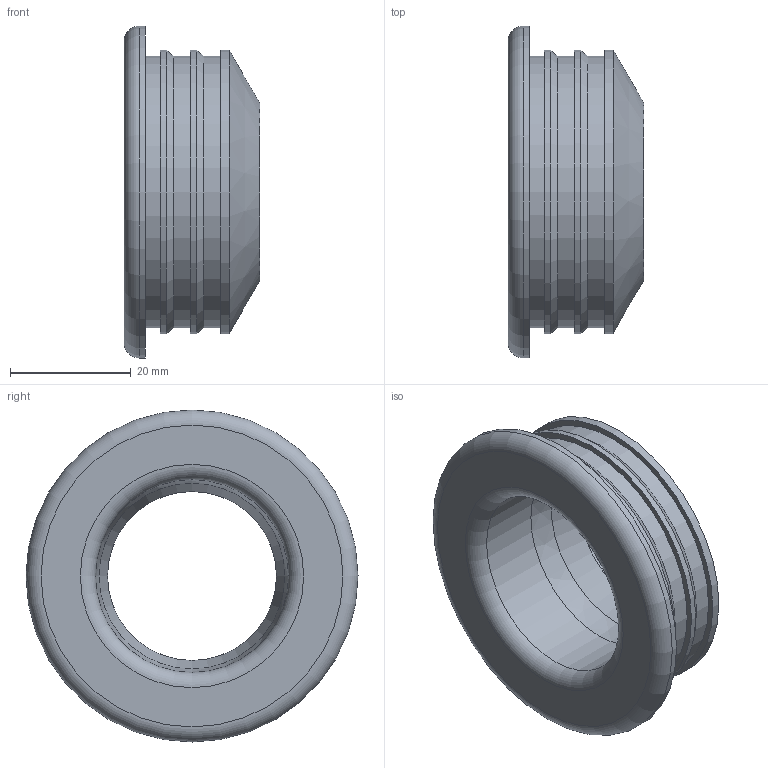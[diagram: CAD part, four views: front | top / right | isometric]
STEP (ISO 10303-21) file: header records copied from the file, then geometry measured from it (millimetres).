
FILE_DESCRIPTION(/* description */ (''),/* implementation_level */ '2;1');
FILE_NAME(/* name */ 'H:\Geberit-Teile\Export\Manschetten ART\stp\152495.stp',/* time_stamp */ '2014-05-12T13:19:06+02:00',/* author */ ('seihe2'),/* organization */ (''),/* preprocessor_version */ 'ST-DEVELOPER v15.2',/* originating_system */ 'Autodesk Inventor 2014',/* authorisation */ '');
FILE_SCHEMA (('AUTOMOTIVE_DESIGN { 1 0 10303 214 3 1 1 }'));
Length unit declared in the file: millimetre
Products named in the file (1): 152495
Bounding box: 22.5 x 55 x 55 mm (x, y, z)
Volume: 19372.9 mm3; surface area: 8701.5 mm2
Topology: 1 solids, 1 shells, 22 faces, 40 edges, 24 vertices
Faces by surface type: cylinder 8, plane 6, cone 4, torus 3, bspline 1
Full cylindrical faces by diameter (mm): 32 x1, 45 x3, 47 x3, 55 x1
Entity records: 537 total; most frequent: CARTESIAN_POINT 100, DIRECTION 92, ORIENTED_EDGE 50, AXIS2_PLACEMENT_3D 46, EDGE_LOOP 43, FACE_BOUND 25, EDGE_CURVE 25, CIRCLE 24
